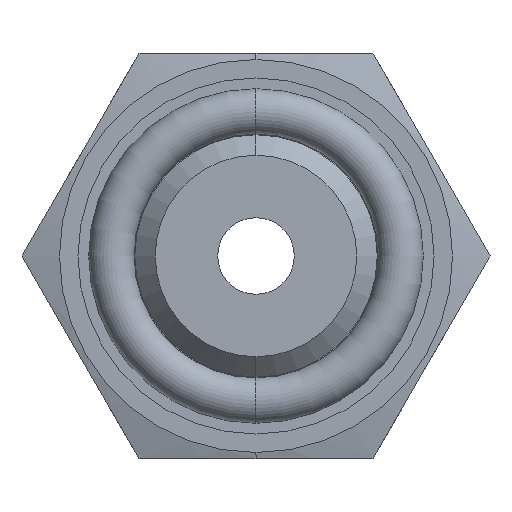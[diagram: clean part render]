
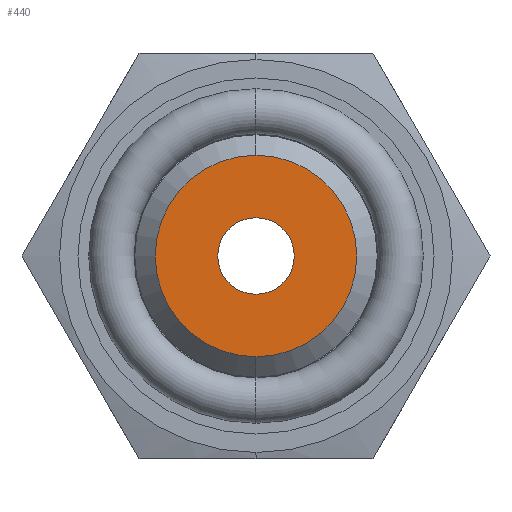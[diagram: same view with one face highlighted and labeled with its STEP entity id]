
A CAD part, left-side view. The second image highlights one B-rep face of the part: STEP entity #440.
In plain terms, the highlighted planar face has unit normal (-1, 0, 0).
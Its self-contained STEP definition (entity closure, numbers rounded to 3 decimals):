
#120 = VERTEX_POINT ( 'NONE', #824 ) ;
#154 = EDGE_CURVE ( 'NONE', #1883, #155, #945, .T. ) ;
#155 = VERTEX_POINT ( 'NONE', #940 ) ;
#199 = EDGE_CURVE ( 'NONE', #200, #120, #1030, .T. ) ;
#200 = VERTEX_POINT ( 'NONE', #1025 ) ;
#438 = EDGE_CURVE ( 'NONE', #120, #200, #1480, .T. ) ;
#440 = ADVANCED_FACE ( 'NONE', ( #1470, #1469 ), #1468, .T. ) ;
#441 = EDGE_LOOP ( 'NONE', ( #442, #443 ) ) ;
#442 = ORIENTED_EDGE ( 'NONE', *, *, #199, .F. ) ;
#443 = ORIENTED_EDGE ( 'NONE', *, *, #438, .F. ) ;
#444 = EDGE_LOOP ( 'NONE', ( #445, #447 ) ) ;
#445 = ORIENTED_EDGE ( 'NONE', *, *, #446, .T. ) ;
#446 = EDGE_CURVE ( 'NONE', #155, #1883, #1462, .T. ) ;
#447 = ORIENTED_EDGE ( 'NONE', *, *, #154, .T. ) ;
#824 = CARTESIAN_POINT ( 'NONE',  ( -13.15, 0., 1.5 ) ) ;
#940 = CARTESIAN_POINT ( 'NONE',  ( -13.15, 0., -3.948 ) ) ;
#941 = DIRECTION ( 'NONE',  ( 0., 0., 1. ) ) ;
#942 = DIRECTION ( 'NONE',  ( -1., 0., 0. ) ) ;
#943 = CARTESIAN_POINT ( 'NONE',  ( -13.15, 0., 0. ) ) ;
#944 = AXIS2_PLACEMENT_3D ( 'NONE', #943, #942, #941 ) ;
#945 = CIRCLE ( 'NONE', #944, 3.948 ) ;
#1025 = CARTESIAN_POINT ( 'NONE',  ( -13.15, 0., -1.5 ) ) ;
#1026 = DIRECTION ( 'NONE',  ( 0., 0., 1. ) ) ;
#1027 = DIRECTION ( 'NONE',  ( -1., 0., 0. ) ) ;
#1028 = CARTESIAN_POINT ( 'NONE',  ( -13.15, 0., 0. ) ) ;
#1029 = AXIS2_PLACEMENT_3D ( 'NONE', #1028, #1027, #1026 ) ;
#1030 = CIRCLE ( 'NONE', #1029, 1.5 ) ;
#1460 = DIRECTION ( 'NONE',  ( -1., 0., 0. ) ) ;
#1461 = AXIS2_PLACEMENT_3D ( 'NONE', #1466, #1460, #1521 ) ;
#1462 = CIRCLE ( 'NONE', #1461, 3.948 ) ;
#1463 = DIRECTION ( 'NONE',  ( 0., 0., 1. ) ) ;
#1464 = DIRECTION ( 'NONE',  ( -1., 0., 0. ) ) ;
#1465 = AXIS2_PLACEMENT_3D ( 'NONE', #1467, #1464, #1463 ) ;
#1466 = CARTESIAN_POINT ( 'NONE',  ( -13.15, 0., 0. ) ) ;
#1467 = CARTESIAN_POINT ( 'NONE',  ( -13.15, 0., 0. ) ) ;
#1468 = PLANE ( 'NONE',  #1465 ) ;
#1469 = FACE_OUTER_BOUND ( 'NONE', #444, .T. ) ;
#1470 = FACE_BOUND ( 'NONE', #441, .T. ) ;
#1476 = DIRECTION ( 'NONE',  ( 0., 0., 1. ) ) ;
#1477 = DIRECTION ( 'NONE',  ( -1., 0., 0. ) ) ;
#1478 = CARTESIAN_POINT ( 'NONE',  ( -13.15, 0., 0. ) ) ;
#1479 = AXIS2_PLACEMENT_3D ( 'NONE', #1478, #1477, #1476 ) ;
#1480 = CIRCLE ( 'NONE', #1479, 1.5 ) ;
#1521 = DIRECTION ( 'NONE',  ( 0., 0., 1. ) ) ;
#1713 = CARTESIAN_POINT ( 'NONE',  ( -13.15, 0., 3.948 ) ) ;
#1883 = VERTEX_POINT ( 'NONE', #1713 ) ;
